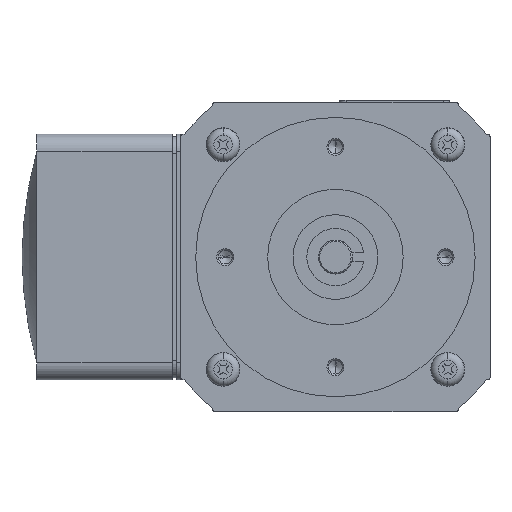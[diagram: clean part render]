
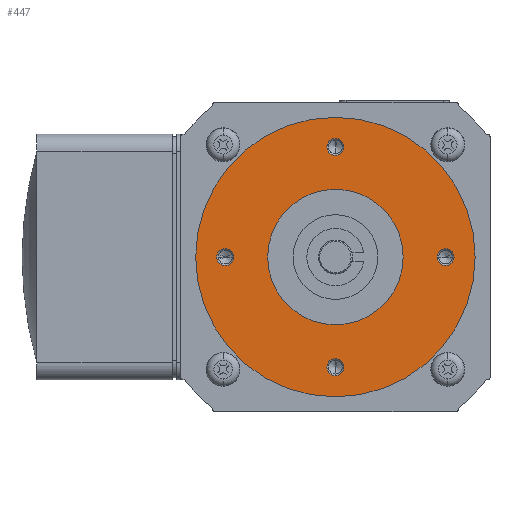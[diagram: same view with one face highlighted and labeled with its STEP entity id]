
A CAD part, left-side view. The second image highlights one B-rep face of the part: STEP entity #447.
In plain terms, the highlighted planar face has unit normal (-1, 0, 0).
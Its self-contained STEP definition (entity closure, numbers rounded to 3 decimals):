
#447 = ADVANCED_FACE( '', ( #1236, #1237, #1238, #1239, #1240, #1241 ), #1242, .T. );
#1236 = FACE_BOUND( '', #2044, .T. );
#1237 = FACE_BOUND( '', #2045, .T. );
#1238 = FACE_BOUND( '', #2046, .T. );
#1239 = FACE_BOUND( '', #2047, .T. );
#1240 = FACE_BOUND( '', #2048, .T. );
#1241 = FACE_OUTER_BOUND( '', #2049, .T. );
#1242 = PLANE( '', #2050 );
#2044 = EDGE_LOOP( '', ( #5091, #5092 ) );
#2045 = EDGE_LOOP( '', ( #5093, #5094 ) );
#2046 = EDGE_LOOP( '', ( #5095, #5096 ) );
#2047 = EDGE_LOOP( '', ( #5097, #5098 ) );
#2048 = EDGE_LOOP( '', ( #5099, #5100 ) );
#2049 = EDGE_LOOP( '', ( #5101, #5102 ) );
#2050 = AXIS2_PLACEMENT_3D( '', #5103, #5104, #5105 );
#5091 = ORIENTED_EDGE( '', *, *, #5318, .T. );
#5092 = ORIENTED_EDGE( '', *, *, #5600, .T. );
#5093 = ORIENTED_EDGE( '', *, *, #5308, .T. );
#5094 = ORIENTED_EDGE( '', *, *, #5602, .T. );
#5095 = ORIENTED_EDGE( '', *, *, #5298, .T. );
#5096 = ORIENTED_EDGE( '', *, *, #5604, .T. );
#5097 = ORIENTED_EDGE( '', *, *, #5288, .T. );
#5098 = ORIENTED_EDGE( '', *, *, #5606, .T. );
#5099 = ORIENTED_EDGE( '', *, *, #5215, .F. );
#5100 = ORIENTED_EDGE( '', *, *, #6199, .F. );
#5101 = ORIENTED_EDGE( '', *, *, #5221, .T. );
#5102 = ORIENTED_EDGE( '', *, *, #6197, .T. );
#5103 = CARTESIAN_POINT( '', ( 4., 24.5, 0. ) );
#5104 = DIRECTION( '', ( -1., 0., 0. ) );
#5105 = DIRECTION( '', ( 0., 1., 0. ) );
#5215 = EDGE_CURVE( '', #6219, #6222, #6223, .T. );
#5221 = EDGE_CURVE( '', #6228, #6232, #6234, .T. );
#5288 = EDGE_CURVE( '', #6357, #6359, #6361, .T. );
#5298 = EDGE_CURVE( '', #6374, #6376, #6378, .T. );
#5308 = EDGE_CURVE( '', #6391, #6393, #6395, .T. );
#5318 = EDGE_CURVE( '', #6408, #6410, #6412, .T. );
#5600 = EDGE_CURVE( '', #6410, #6408, #6882, .T. );
#5602 = EDGE_CURVE( '', #6393, #6391, #6884, .T. );
#5604 = EDGE_CURVE( '', #6376, #6374, #6886, .T. );
#5606 = EDGE_CURVE( '', #6359, #6357, #6888, .T. );
#6197 = EDGE_CURVE( '', #6232, #6228, #7859, .T. );
#6199 = EDGE_CURVE( '', #6222, #6219, #7861, .T. );
#6219 = VERTEX_POINT( '', #7885 );
#6222 = VERTEX_POINT( '', #7889 );
#6223 = CIRCLE( '', #7890, 16. );
#6228 = VERTEX_POINT( '', #7896 );
#6232 = VERTEX_POINT( '', #7901 );
#6234 = CIRCLE( '', #7904, 33. );
#6357 = VERTEX_POINT( '', #8041 );
#6359 = VERTEX_POINT( '', #8044 );
#6361 = CIRCLE( '', #8047, 2. );
#6374 = VERTEX_POINT( '', #8064 );
#6376 = VERTEX_POINT( '', #8067 );
#6378 = CIRCLE( '', #8070, 2. );
#6391 = VERTEX_POINT( '', #8087 );
#6393 = VERTEX_POINT( '', #8090 );
#6395 = CIRCLE( '', #8093, 2. );
#6408 = VERTEX_POINT( '', #8110 );
#6410 = VERTEX_POINT( '', #8113 );
#6412 = CIRCLE( '', #8116, 2. );
#6882 = CIRCLE( '', #8815, 2. );
#6884 = CIRCLE( '', #8817, 2. );
#6886 = CIRCLE( '', #8819, 2. );
#6888 = CIRCLE( '', #8821, 2. );
#7859 = CIRCLE( '', #10164, 33. );
#7861 = CIRCLE( '', #10166, 16. );
#7885 = CARTESIAN_POINT( '', ( 4., 16., 0. ) );
#7889 = CARTESIAN_POINT( '', ( 4., -16., 0. ) );
#7890 = AXIS2_PLACEMENT_3D( '', #10187, #10188, #10189 );
#7896 = CARTESIAN_POINT( '', ( 4., 33., 0. ) );
#7901 = CARTESIAN_POINT( '', ( 4., -33., 0. ) );
#7904 = AXIS2_PLACEMENT_3D( '', #10199, #10200, #10201 );
#8041 = CARTESIAN_POINT( '', ( 4., -28., 0. ) );
#8044 = CARTESIAN_POINT( '', ( 4., -24., 0. ) );
#8047 = AXIS2_PLACEMENT_3D( '', #10368, #10369, #10370 );
#8064 = CARTESIAN_POINT( '', ( 4., 24., 0. ) );
#8067 = CARTESIAN_POINT( '', ( 4., 28., 0. ) );
#8070 = AXIS2_PLACEMENT_3D( '', #10386, #10387, #10388 );
#8087 = CARTESIAN_POINT( '', ( 4., 0., 28. ) );
#8090 = CARTESIAN_POINT( '', ( 4., 0., 24. ) );
#8093 = AXIS2_PLACEMENT_3D( '', #10404, #10405, #10406 );
#8110 = CARTESIAN_POINT( '', ( 4., 0., -24. ) );
#8113 = CARTESIAN_POINT( '', ( 4., 0., -28. ) );
#8116 = AXIS2_PLACEMENT_3D( '', #10422, #10423, #10424 );
#8815 = AXIS2_PLACEMENT_3D( '', #10932, #10933, #10934 );
#8817 = AXIS2_PLACEMENT_3D( '', #10938, #10939, #10940 );
#8819 = AXIS2_PLACEMENT_3D( '', #10944, #10945, #10946 );
#8821 = AXIS2_PLACEMENT_3D( '', #10950, #10951, #10952 );
#10164 = AXIS2_PLACEMENT_3D( '', #11979, #11980, #11981 );
#10166 = AXIS2_PLACEMENT_3D( '', #11985, #11986, #11987 );
#10187 = CARTESIAN_POINT( '', ( 4., 0., 0. ) );
#10188 = DIRECTION( '', ( -1., 0., 0. ) );
#10189 = DIRECTION( '', ( 0., 1., 0. ) );
#10199 = CARTESIAN_POINT( '', ( 4., 0., 0. ) );
#10200 = DIRECTION( '', ( -1., 0., 0. ) );
#10201 = DIRECTION( '', ( 0., 1., 0. ) );
#10368 = CARTESIAN_POINT( '', ( 4., -26., 0. ) );
#10369 = DIRECTION( '', ( 1., 0., 0. ) );
#10370 = DIRECTION( '', ( 0., -1., 0. ) );
#10386 = CARTESIAN_POINT( '', ( 4., 26., 0. ) );
#10387 = DIRECTION( '', ( 1., 0., 0. ) );
#10388 = DIRECTION( '', ( 0., -1., 0. ) );
#10404 = CARTESIAN_POINT( '', ( 4., 0., 26. ) );
#10405 = DIRECTION( '', ( 1., 0., 0. ) );
#10406 = DIRECTION( '', ( 0., 0., 1. ) );
#10422 = CARTESIAN_POINT( '', ( 4., 0., -26. ) );
#10423 = DIRECTION( '', ( 1., 0., 0. ) );
#10424 = DIRECTION( '', ( 0., 0., 1. ) );
#10932 = CARTESIAN_POINT( '', ( 4., 0., -26. ) );
#10933 = DIRECTION( '', ( 1., 0., 0. ) );
#10934 = DIRECTION( '', ( 0., 0., 1. ) );
#10938 = CARTESIAN_POINT( '', ( 4., 0., 26. ) );
#10939 = DIRECTION( '', ( 1., 0., 0. ) );
#10940 = DIRECTION( '', ( 0., 0., 1. ) );
#10944 = CARTESIAN_POINT( '', ( 4., 26., 0. ) );
#10945 = DIRECTION( '', ( 1., 0., 0. ) );
#10946 = DIRECTION( '', ( 0., -1., 0. ) );
#10950 = CARTESIAN_POINT( '', ( 4., -26., 0. ) );
#10951 = DIRECTION( '', ( 1., 0., 0. ) );
#10952 = DIRECTION( '', ( 0., -1., 0. ) );
#11979 = CARTESIAN_POINT( '', ( 4., 0., 0. ) );
#11980 = DIRECTION( '', ( -1., 0., 0. ) );
#11981 = DIRECTION( '', ( 0., 1., 0. ) );
#11985 = CARTESIAN_POINT( '', ( 4., 0., 0. ) );
#11986 = DIRECTION( '', ( -1., 0., 0. ) );
#11987 = DIRECTION( '', ( 0., 1., 0. ) );
